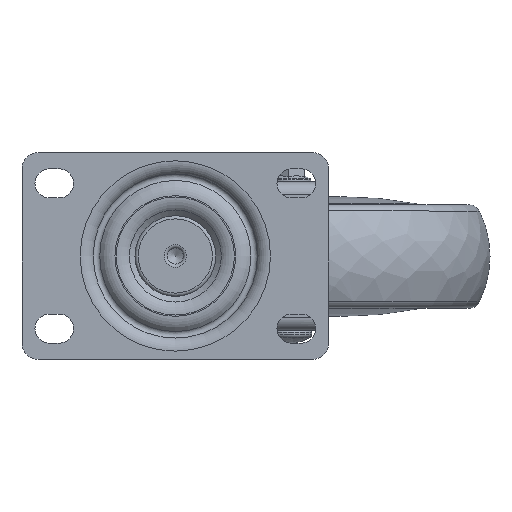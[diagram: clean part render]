
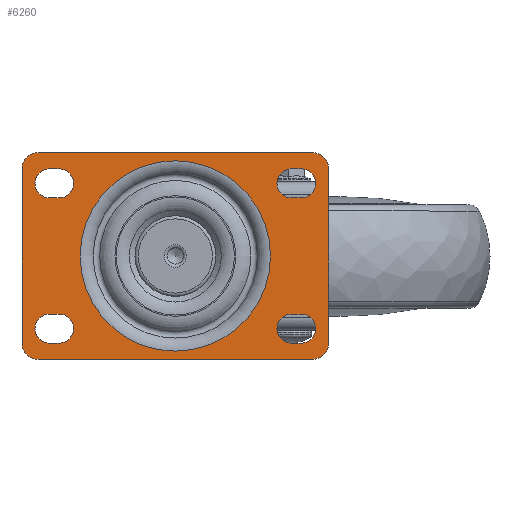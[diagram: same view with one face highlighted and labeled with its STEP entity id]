
A CAD part, top view. The second image highlights one B-rep face of the part: STEP entity #6260.
In plain terms, the highlighted planar face has unit normal (0, 0, 1).
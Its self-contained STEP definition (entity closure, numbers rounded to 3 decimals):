
#5226=CARTESIAN_POINT('',(20.988,0.,55.1));
#5227=VERTEX_POINT('',#5226);
#5228=CARTESIAN_POINT('',(-8.5,0.0,55.1));
#5229=DIRECTION('',(0.0,0.0,-1.0));
#5230=DIRECTION('',(-1.0,0.0,0.0));
#5231=AXIS2_PLACEMENT_3D('',#5228,#5229,#5230);
#5232=CIRCLE('',#5231,29.488);
#5233=EDGE_CURVE('',#5227,#5227,#5232,.T.);
#5442=CARTESIAN_POINT('',(34.,32.0,55.1));
#5443=VERTEX_POINT('',#5442);
#5450=CARTESIAN_POINT('',(39.,27.0,55.1));
#5451=VERTEX_POINT('',#5450);
#5452=CARTESIAN_POINT('',(34.,27.0,55.1));
#5453=DIRECTION('',(0.0,0.0,-1.0));
#5454=DIRECTION('',(1.0,0.0,0.0));
#5455=AXIS2_PLACEMENT_3D('',#5452,#5453,#5454);
#5456=CIRCLE('',#5455,5.0);
#5457=EDGE_CURVE('',#5443,#5451,#5456,.T.);
#5481=CARTESIAN_POINT('',(-51.,32.,55.1));
#5482=VERTEX_POINT('',#5481);
#5489=CARTESIAN_POINT('',(-51.,32.,55.1));
#5490=DIRECTION('',(1.0,0.0,0.0));
#5491=VECTOR('',#5490,85.);
#5492=LINE('',#5489,#5491);
#5493=EDGE_CURVE('',#5482,#5443,#5492,.T.);
#5513=CARTESIAN_POINT('',(-56.,27.,55.1));
#5514=VERTEX_POINT('',#5513);
#5521=CARTESIAN_POINT('',(-51.,27.,55.1));
#5522=DIRECTION('',(0.0,0.0,-1.0));
#5523=DIRECTION('',(1.0,0.0,0.0));
#5524=AXIS2_PLACEMENT_3D('',#5521,#5522,#5523);
#5525=CIRCLE('',#5524,5.0);
#5526=EDGE_CURVE('',#5514,#5482,#5525,.T.);
#5545=CARTESIAN_POINT('',(-56.,-27.,55.1));
#5546=VERTEX_POINT('',#5545);
#5553=CARTESIAN_POINT('',(-56.,-27.,55.1));
#5554=DIRECTION('',(0.0,1.0,0.0));
#5555=VECTOR('',#5554,54.);
#5556=LINE('',#5553,#5555);
#5557=EDGE_CURVE('',#5546,#5514,#5556,.T.);
#5577=CARTESIAN_POINT('',(-51.,-32.,55.1));
#5578=VERTEX_POINT('',#5577);
#5585=CARTESIAN_POINT('',(-51.,-27.,55.1));
#5586=DIRECTION('',(0.0,0.0,-1.0));
#5587=DIRECTION('',(1.0,0.0,0.0));
#5588=AXIS2_PLACEMENT_3D('',#5585,#5586,#5587);
#5589=CIRCLE('',#5588,5.0);
#5590=EDGE_CURVE('',#5578,#5546,#5589,.T.);
#5609=CARTESIAN_POINT('',(34.,-32.0,55.1));
#5610=VERTEX_POINT('',#5609);
#5617=CARTESIAN_POINT('',(34.,-32.0,55.1));
#5618=DIRECTION('',(-1.0,0.0,0.0));
#5619=VECTOR('',#5618,85.0);
#5620=LINE('',#5617,#5619);
#5621=EDGE_CURVE('',#5610,#5578,#5620,.T.);
#5641=CARTESIAN_POINT('',(39.,-27.0,55.1));
#5642=VERTEX_POINT('',#5641);
#5649=CARTESIAN_POINT('',(34.,-27.0,55.1));
#5650=DIRECTION('',(0.0,0.0,-1.0));
#5651=DIRECTION('',(1.0,0.0,0.0));
#5652=AXIS2_PLACEMENT_3D('',#5649,#5650,#5651);
#5653=CIRCLE('',#5652,5.0);
#5654=EDGE_CURVE('',#5642,#5610,#5653,.T.);
#5672=CARTESIAN_POINT('',(39.,27.0,55.1));
#5673=DIRECTION('',(0.0,-1.0,0.0));
#5674=VECTOR('',#5673,54.0);
#5675=LINE('',#5672,#5674);
#5676=EDGE_CURVE('',#5451,#5642,#5675,.T.);
#5698=CARTESIAN_POINT('',(-44.5,18.0,55.1));
#5699=VERTEX_POINT('',#5698);
#5706=CARTESIAN_POINT('',(-44.5,27.0,55.1));
#5707=VERTEX_POINT('',#5706);
#5708=CARTESIAN_POINT('',(-44.5,22.5,55.1));
#5709=DIRECTION('',(0.0,0.0,-1.0));
#5710=DIRECTION('',(1.0,0.0,0.0));
#5711=AXIS2_PLACEMENT_3D('',#5708,#5709,#5710);
#5712=CIRCLE('',#5711,4.5);
#5713=EDGE_CURVE('',#5707,#5699,#5712,.T.);
#5737=CARTESIAN_POINT('',(-47.5,18.0,55.1));
#5738=VERTEX_POINT('',#5737);
#5745=CARTESIAN_POINT('',(-44.5,18.0,55.1));
#5746=DIRECTION('',(-1.0,0.0,0.0));
#5747=VECTOR('',#5746,3.0);
#5748=LINE('',#5745,#5747);
#5749=EDGE_CURVE('',#5699,#5738,#5748,.T.);
#5769=CARTESIAN_POINT('',(-47.5,27.0,55.1));
#5770=VERTEX_POINT('',#5769);
#5777=CARTESIAN_POINT('',(-47.5,22.5,55.1));
#5778=DIRECTION('',(0.0,0.0,-1.0));
#5779=DIRECTION('',(1.0,0.0,0.0));
#5780=AXIS2_PLACEMENT_3D('',#5777,#5778,#5779);
#5781=CIRCLE('',#5780,4.5);
#5782=EDGE_CURVE('',#5738,#5770,#5781,.T.);
#5800=CARTESIAN_POINT('',(-47.5,27.0,55.1));
#5801=DIRECTION('',(1.0,0.0,0.0));
#5802=VECTOR('',#5801,3.0);
#5803=LINE('',#5800,#5802);
#5804=EDGE_CURVE('',#5770,#5707,#5803,.T.);
#5826=CARTESIAN_POINT('',(27.5,27.0,55.1));
#5827=VERTEX_POINT('',#5826);
#5834=CARTESIAN_POINT('',(27.5,18.0,55.1));
#5835=VERTEX_POINT('',#5834);
#5836=CARTESIAN_POINT('',(27.5,22.5,55.1));
#5837=DIRECTION('',(0.0,0.0,-1.0));
#5838=DIRECTION('',(1.0,0.0,0.0));
#5839=AXIS2_PLACEMENT_3D('',#5836,#5837,#5838);
#5840=CIRCLE('',#5839,4.5);
#5841=EDGE_CURVE('',#5835,#5827,#5840,.T.);
#5865=CARTESIAN_POINT('',(30.5,27.0,55.1));
#5866=VERTEX_POINT('',#5865);
#5873=CARTESIAN_POINT('',(27.5,27.0,55.1));
#5874=DIRECTION('',(1.0,0.0,0.0));
#5875=VECTOR('',#5874,3.);
#5876=LINE('',#5873,#5875);
#5877=EDGE_CURVE('',#5827,#5866,#5876,.T.);
#5897=CARTESIAN_POINT('',(30.5,18.0,55.1));
#5898=VERTEX_POINT('',#5897);
#5905=CARTESIAN_POINT('',(30.5,22.5,55.1));
#5906=DIRECTION('',(0.0,0.0,-1.0));
#5907=DIRECTION('',(1.0,0.0,0.0));
#5908=AXIS2_PLACEMENT_3D('',#5905,#5906,#5907);
#5909=CIRCLE('',#5908,4.5);
#5910=EDGE_CURVE('',#5866,#5898,#5909,.T.);
#5928=CARTESIAN_POINT('',(30.5,18.0,55.1));
#5929=DIRECTION('',(-1.0,0.0,0.0));
#5930=VECTOR('',#5929,3.0);
#5931=LINE('',#5928,#5930);
#5932=EDGE_CURVE('',#5898,#5835,#5931,.T.);
#5954=CARTESIAN_POINT('',(-44.5,-27.0,55.1));
#5955=VERTEX_POINT('',#5954);
#5962=CARTESIAN_POINT('',(-44.5,-18.,55.1));
#5963=VERTEX_POINT('',#5962);
#5964=CARTESIAN_POINT('',(-44.5,-22.5,55.1));
#5965=DIRECTION('',(0.0,0.0,-1.0));
#5966=DIRECTION('',(1.0,0.0,0.0));
#5967=AXIS2_PLACEMENT_3D('',#5964,#5965,#5966);
#5968=CIRCLE('',#5967,4.5);
#5969=EDGE_CURVE('',#5963,#5955,#5968,.T.);
#5993=CARTESIAN_POINT('',(-47.5,-27.0,55.1));
#5994=VERTEX_POINT('',#5993);
#6001=CARTESIAN_POINT('',(-44.5,-27.0,55.1));
#6002=DIRECTION('',(-1.0,0.0,0.0));
#6003=VECTOR('',#6002,3.0);
#6004=LINE('',#6001,#6003);
#6005=EDGE_CURVE('',#5955,#5994,#6004,.T.);
#6025=CARTESIAN_POINT('',(-47.5,-18.,55.1));
#6026=VERTEX_POINT('',#6025);
#6033=CARTESIAN_POINT('',(-47.5,-22.5,55.1));
#6034=DIRECTION('',(0.0,0.0,-1.0));
#6035=DIRECTION('',(1.0,0.0,0.0));
#6036=AXIS2_PLACEMENT_3D('',#6033,#6034,#6035);
#6037=CIRCLE('',#6036,4.5);
#6038=EDGE_CURVE('',#5994,#6026,#6037,.T.);
#6056=CARTESIAN_POINT('',(-47.5,-18.,55.1));
#6057=DIRECTION('',(1.0,0.0,0.0));
#6058=VECTOR('',#6057,3.0);
#6059=LINE('',#6056,#6058);
#6060=EDGE_CURVE('',#6026,#5963,#6059,.T.);
#6082=CARTESIAN_POINT('',(27.5,-18.,55.1));
#6083=VERTEX_POINT('',#6082);
#6090=CARTESIAN_POINT('',(27.5,-27.0,55.1));
#6091=VERTEX_POINT('',#6090);
#6092=CARTESIAN_POINT('',(27.5,-22.5,55.1));
#6093=DIRECTION('',(0.0,0.0,-1.0));
#6094=DIRECTION('',(1.0,0.0,0.0));
#6095=AXIS2_PLACEMENT_3D('',#6092,#6093,#6094);
#6096=CIRCLE('',#6095,4.5);
#6097=EDGE_CURVE('',#6091,#6083,#6096,.T.);
#6121=CARTESIAN_POINT('',(30.5,-18.,55.1));
#6122=VERTEX_POINT('',#6121);
#6129=CARTESIAN_POINT('',(27.5,-18.,55.1));
#6130=DIRECTION('',(1.0,0.0,0.0));
#6131=VECTOR('',#6130,3.);
#6132=LINE('',#6129,#6131);
#6133=EDGE_CURVE('',#6083,#6122,#6132,.T.);
#6153=CARTESIAN_POINT('',(30.5,-27.0,55.1));
#6154=VERTEX_POINT('',#6153);
#6161=CARTESIAN_POINT('',(30.5,-22.5,55.1));
#6162=DIRECTION('',(0.0,0.0,-1.0));
#6163=DIRECTION('',(1.0,0.0,0.0));
#6164=AXIS2_PLACEMENT_3D('',#6161,#6162,#6163);
#6165=CIRCLE('',#6164,4.5);
#6166=EDGE_CURVE('',#6122,#6154,#6165,.T.);
#6184=CARTESIAN_POINT('',(30.5,-27.0,55.1));
#6185=DIRECTION('',(-1.0,0.0,0.0));
#6186=VECTOR('',#6185,3.);
#6187=LINE('',#6184,#6186);
#6188=EDGE_CURVE('',#6154,#6091,#6187,.T.);
#6218=CARTESIAN_POINT('',(-38.244,0.0,55.1));
#6219=DIRECTION('',(0.0,0.0,1.0));
#6220=DIRECTION('',(1.0,0.0,0.0));
#6221=AXIS2_PLACEMENT_3D('',#6218,#6219,#6220);
#6222=PLANE('',#6221);
#6223=ORIENTED_EDGE('',*,*,#5676,.F.);
#6224=ORIENTED_EDGE('',*,*,#5457,.F.);
#6225=ORIENTED_EDGE('',*,*,#5493,.F.);
#6226=ORIENTED_EDGE('',*,*,#5526,.F.);
#6227=ORIENTED_EDGE('',*,*,#5557,.F.);
#6228=ORIENTED_EDGE('',*,*,#5590,.F.);
#6229=ORIENTED_EDGE('',*,*,#5621,.F.);
#6230=ORIENTED_EDGE('',*,*,#5654,.F.);
#6231=EDGE_LOOP('',(#6223,#6224,#6225,#6226,#6227,#6228,#6229,#6230));
#6232=FACE_OUTER_BOUND('',#6231,.T.);
#6233=ORIENTED_EDGE('',*,*,#5804,.T.);
#6234=ORIENTED_EDGE('',*,*,#5713,.T.);
#6235=ORIENTED_EDGE('',*,*,#5749,.T.);
#6236=ORIENTED_EDGE('',*,*,#5782,.T.);
#6237=EDGE_LOOP('',(#6233,#6234,#6235,#6236));
#6238=FACE_BOUND('',#6237,.T.);
#6239=ORIENTED_EDGE('',*,*,#5932,.T.);
#6240=ORIENTED_EDGE('',*,*,#5841,.T.);
#6241=ORIENTED_EDGE('',*,*,#5877,.T.);
#6242=ORIENTED_EDGE('',*,*,#5910,.T.);
#6243=EDGE_LOOP('',(#6239,#6240,#6241,#6242));
#6244=FACE_BOUND('',#6243,.T.);
#6245=ORIENTED_EDGE('',*,*,#6060,.T.);
#6246=ORIENTED_EDGE('',*,*,#5969,.T.);
#6247=ORIENTED_EDGE('',*,*,#6005,.T.);
#6248=ORIENTED_EDGE('',*,*,#6038,.T.);
#6249=EDGE_LOOP('',(#6245,#6246,#6247,#6248));
#6250=FACE_BOUND('',#6249,.T.);
#6251=ORIENTED_EDGE('',*,*,#6188,.T.);
#6252=ORIENTED_EDGE('',*,*,#6097,.T.);
#6253=ORIENTED_EDGE('',*,*,#6133,.T.);
#6254=ORIENTED_EDGE('',*,*,#6166,.T.);
#6255=EDGE_LOOP('',(#6251,#6252,#6253,#6254));
#6256=FACE_BOUND('',#6255,.T.);
#6257=ORIENTED_EDGE('',*,*,#5233,.T.);
#6258=EDGE_LOOP('',(#6257));
#6259=FACE_BOUND('',#6258,.T.);
#6260=ADVANCED_FACE('',(#6232,#6238,#6244,#6250,#6256,#6259),#6222,.T.);
